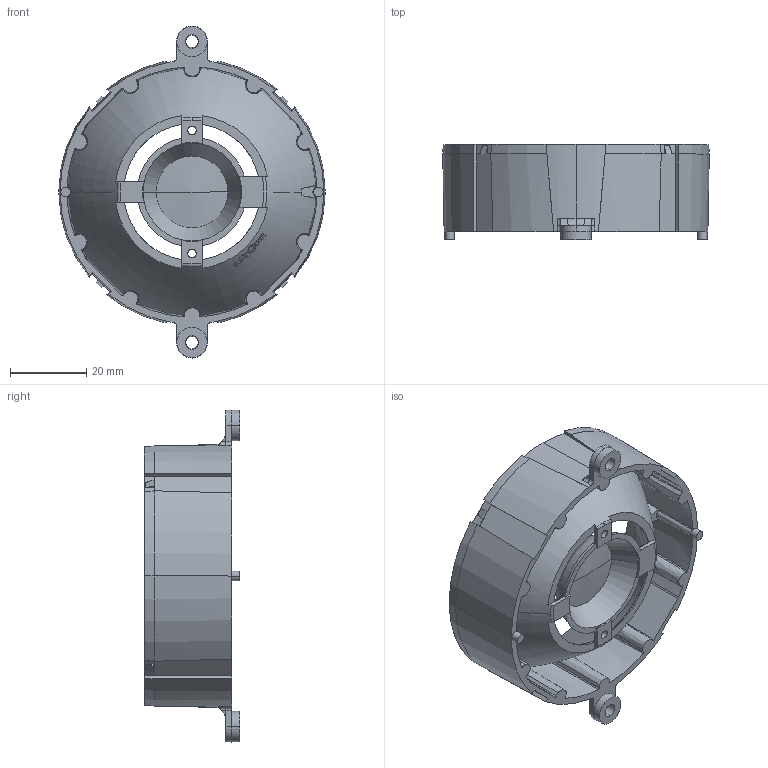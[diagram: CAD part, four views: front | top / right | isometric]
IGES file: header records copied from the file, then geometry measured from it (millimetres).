
Start section: 3D InterOp IGES (Version 21 0 3), Spatial Corp. Copyright (c) 1999-2007.
Global section: file name: LLR05N11AC1.igs; native system: Spatial Corp.; preprocessor: 3D InterOp GENERIC/IGES 3.0; author: Noname; organization: Noname; date: 20120614.110909; units: millimetre
Bounding box: 69.91 x 24.97 x 87.1 mm (x, y, z)
Surface area: 24773.9 mm2 (no closed solid volume)
Topology: 0 solids, 0 shells, 470 faces, 2908 edges, 2906 vertices
Faces by surface type: revolution 226, extrusion 204, bspline 40
